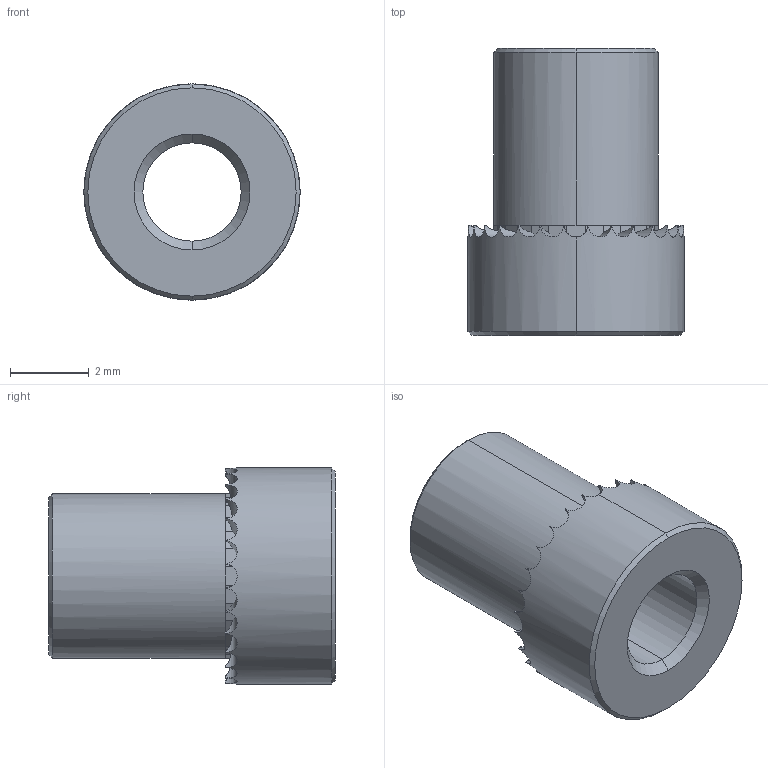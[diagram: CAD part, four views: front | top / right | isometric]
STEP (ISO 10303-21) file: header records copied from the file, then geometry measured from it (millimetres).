
FILE_DESCRIPTION (( 'STEP AP203' ), '1' );
FILE_NAME ('P0829.025-08G-ZP.step', '2019-03-21T22:12:24', ( '' ), ( '' ), 'SwSTEP 2.0', 'SolidWorks 2017', '' );
FILE_SCHEMA (( 'CONFIG_CONTROL_DESIGN' ));
Length unit declared in the file: millimetre
Products named in the file (1): P0829.025-08G-ZP
Bounding box: 5.5 x 7.3 x 5.5 mm (x, y, z)
Volume: 89.7 mm3; surface area: 201.4 mm2
Topology: 1 solids, 1 shells, 128 faces, 312 edges, 186 vertices
Faces by surface type: plane 86, cylinder 34, cone 8
Entity records: 3963 total; most frequent: CARTESIAN_POINT 965, ORIENTED_EDGE 624, DIRECTION 612, EDGE_CURVE 312, AXIS2_PLACEMENT_3D 229, VERTEX_POINT 186, LINE 154, VECTOR 154
